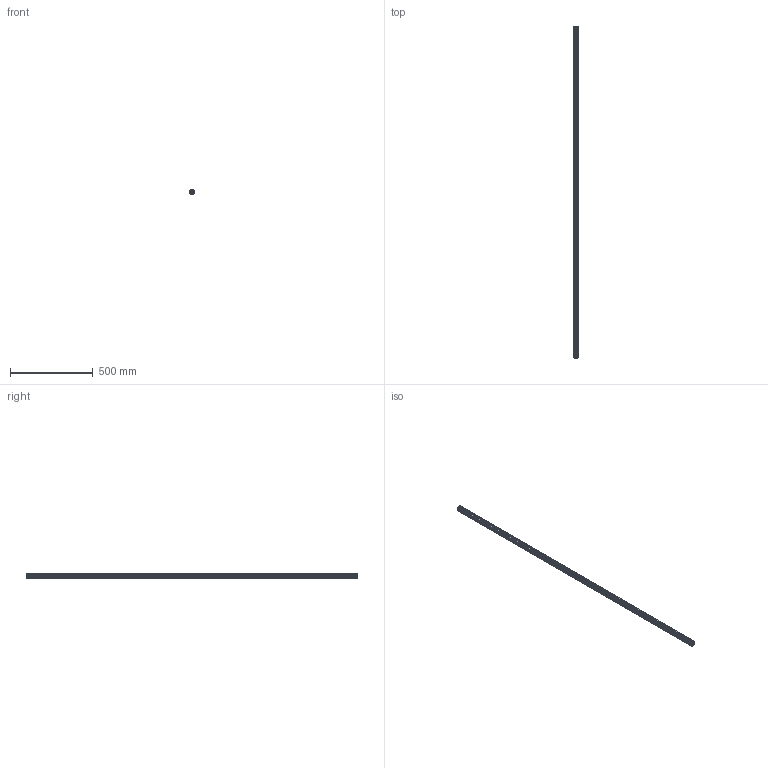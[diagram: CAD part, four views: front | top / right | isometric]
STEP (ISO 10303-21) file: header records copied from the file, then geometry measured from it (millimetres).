
FILE_DESCRIPTION (( 'STEP AP214' ), '1' );
FILE_NAME ('PEP2525-2000.STEP', '2019-10-30T01:11:09', ( '微软用户' ), ( '微软中国' ), 'SwSTEP 2.0', 'SolidWorks 2016', '' );
FILE_SCHEMA (( 'AUTOMOTIVE_DESIGN' ));
Length unit declared in the file: millimetre
Products named in the file (1): PEP2525-2000
Bounding box: 25 x 2000 x 25 mm (x, y, z)
Volume: 503837.1 mm3; surface area: 524149.8 mm2
Topology: 1 solids, 1 shells, 89 faces, 261 edges, 174 vertices
Faces by surface type: cylinder 55, plane 34
Entity records: 4038 total; most frequent: DIRECTION 551, CARTESIAN_POINT 525, ORIENTED_EDGE 522, EDGE_CURVE 261, AXIS2_PLACEMENT_3D 200, VERTEX_POINT 174, LINE 151, VECTOR 151
